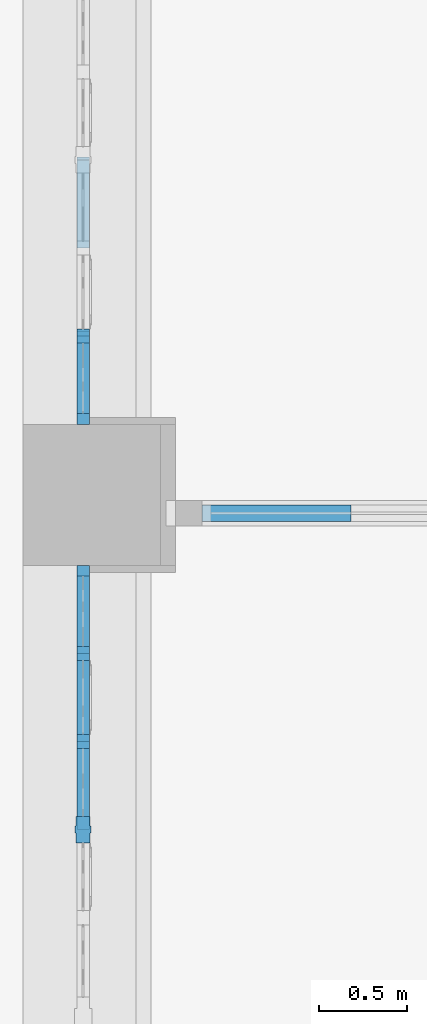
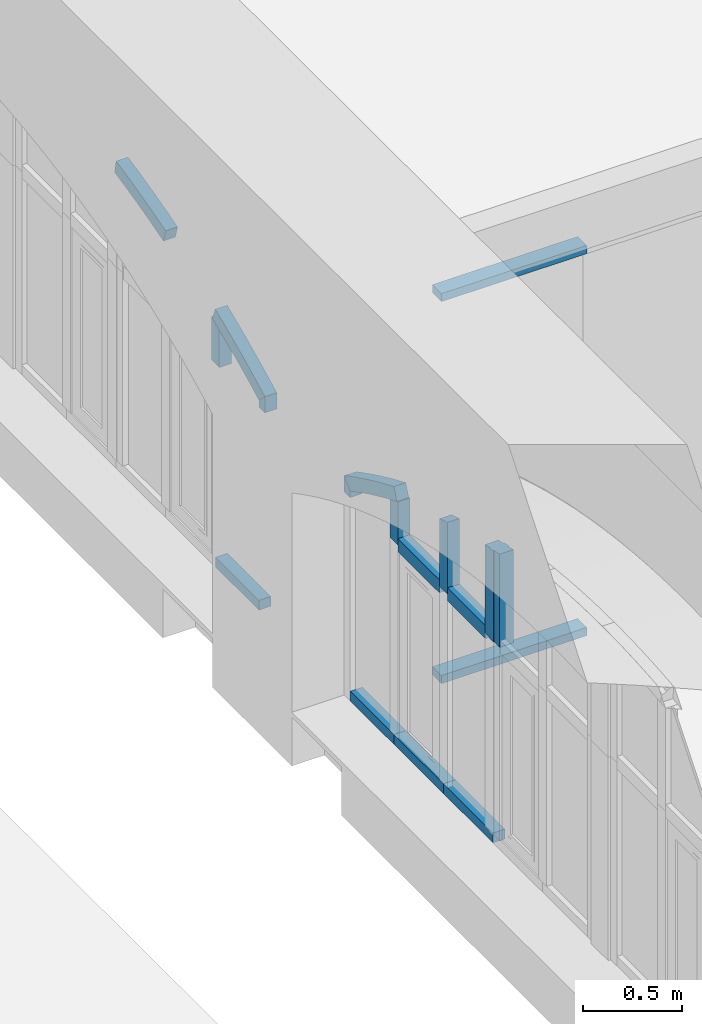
# One storey, part 38 of 88: 17 members, 3 elements without a shape of their own.
"""IFC2X3 building model written with IfcOpenShell, lengths in millimetres."""

from ifc_helpers import new_model, entity, si_unit, converted_unit, derived_unit, direction, frame, frame_2d, origin, place, context, subcontext, project, spatial, polyline, circle_curve, parameter, trimmed, segment, composite_curve, rectangle, outline, extrude, faceted_brep, source, transform, mapped, material, type_object, type_shapes, element, aggregate, save


model = new_model("IFC2X3")

# Units and contexts
model_context = context("Model", 3, precision=0.01, world=origin(), true_north=direction((6.123031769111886e-17, 1.0)))
body_context = subcontext(model_context, "Body", "Model", "MODEL_VIEW")
ifc_project = project(units=[si_unit("LENGTHUNIT", "METRE", prefix="MILLI"), si_unit("AREAUNIT", "SQUARE_METRE"), si_unit("VOLUMEUNIT", "CUBIC_METRE"), converted_unit("PLANEANGLEUNIT", "DEGREE", entity("IfcPlaneAngleMeasure", 0.017453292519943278), si_unit("PLANEANGLEUNIT", "RADIAN"), dimensions=[0, 0, 0, 0, 0, 0, 0]), si_unit("MASSUNIT", "GRAM", prefix="KILO"), derived_unit("MASSDENSITYUNIT", [(si_unit("MASSUNIT", "GRAM", prefix="KILO"), 1), (si_unit("LENGTHUNIT", "METRE"), -3)]), derived_unit("IONCONCENTRATIONUNIT", [(si_unit("MASSUNIT", "GRAM", prefix="KILO"), 1), (si_unit("LENGTHUNIT", "METRE"), -3)]), derived_unit("MOMENTOFINERTIAUNIT", [(si_unit("LENGTHUNIT", "METRE"), 4)]), si_unit("TIMEUNIT", "SECOND"), si_unit("FREQUENCYUNIT", "HERTZ"), si_unit("THERMODYNAMICTEMPERATUREUNIT", "DEGREE_CELSIUS"), derived_unit("THERMALTRANSMITTANCEUNIT", [(si_unit("MASSUNIT", "GRAM", prefix="KILO"), 1), (si_unit("THERMODYNAMICTEMPERATUREUNIT", "KELVIN"), -1), (si_unit("TIMEUNIT", "SECOND"), -3)]), derived_unit("THERMALCONDUCTANCEUNIT", [(si_unit("MASSUNIT", "GRAM", prefix="KILO"), 1), (si_unit("THERMODYNAMICTEMPERATUREUNIT", "KELVIN"), -1), (si_unit("TIMEUNIT", "SECOND"), -3), (si_unit("LENGTHUNIT", "METRE"), 1)]), derived_unit("VOLUMETRICFLOWRATEUNIT", [(si_unit("LENGTHUNIT", "METRE", prefix="DECI"), 3), (si_unit("TIMEUNIT", "SECOND"), -1)]), derived_unit("MASSFLOWRATEUNIT", [(si_unit("MASSUNIT", "GRAM", prefix="KILO"), 1), (si_unit("TIMEUNIT", "SECOND"), -1)]), derived_unit("ROTATIONALFREQUENCYUNIT", [(si_unit("TIMEUNIT", "SECOND"), -1)]), si_unit("ELECTRICCURRENTUNIT", "AMPERE"), si_unit("ELECTRICVOLTAGEUNIT", "VOLT"), si_unit("POWERUNIT", "WATT"), si_unit("FORCEUNIT", "NEWTON", prefix="KILO"), si_unit("ILLUMINANCEUNIT", "LUX"), si_unit("LUMINOUSFLUXUNIT", "LUMEN"), si_unit("LUMINOUSINTENSITYUNIT", "CANDELA"), si_unit("ENERGYUNIT", "JOULE"), derived_unit("USERDEFINED", [(si_unit("MASSUNIT", "GRAM", prefix="KILO"), -1), (si_unit("LENGTHUNIT", "METRE"), -2), (si_unit("TIMEUNIT", "SECOND"), 3), (si_unit("LUMINOUSFLUXUNIT", "LUMEN"), 1)]), derived_unit("USERDEFINED", [(si_unit("MASSUNIT", "GRAM", prefix="KILO"), 1), (si_unit("TIMEUNIT", "SECOND"), -3), (si_unit("LENGTHUNIT", "METRE"), 3), (si_unit("ELECTRICCURRENTUNIT", "AMPERE"), -2)]), derived_unit("SOUNDPOWERUNIT", [(si_unit("MASSUNIT", "GRAM", prefix="KILO"), 1), (si_unit("TIMEUNIT", "SECOND"), -3), (si_unit("LENGTHUNIT", "METRE"), 2)]), derived_unit("SOUNDPRESSUREUNIT", [(si_unit("MASSUNIT", "GRAM", prefix="KILO"), 1), (si_unit("LENGTHUNIT", "METRE"), -1), (si_unit("TIMEUNIT", "SECOND"), -2)]), derived_unit("LINEARVELOCITYUNIT", [(si_unit("LENGTHUNIT", "METRE"), 1), (si_unit("TIMEUNIT", "SECOND"), -1)]), si_unit("PRESSUREUNIT", "PASCAL"), derived_unit("USERDEFINED", [(si_unit("MASSUNIT", "GRAM", prefix="KILO"), 1), (si_unit("LENGTHUNIT", "METRE"), -2), (si_unit("TIMEUNIT", "SECOND"), -2)]), derived_unit("LINEARFORCEUNIT", [(si_unit("MASSUNIT", "GRAM", prefix="KILO"), 1), (si_unit("TIMEUNIT", "SECOND"), -2)]), derived_unit("PLANARFORCEUNIT", [(si_unit("MASSUNIT", "GRAM", prefix="KILO"), 1), (si_unit("LENGTHUNIT", "METRE"), -1), (si_unit("TIMEUNIT", "SECOND"), -2)]), derived_unit("SPECIFICHEATCAPACITYUNIT", [(si_unit("THERMODYNAMICTEMPERATUREUNIT", "KELVIN"), -1), (si_unit("LENGTHUNIT", "METRE"), 2), (si_unit("TIMEUNIT", "SECOND"), -2)]), derived_unit("HEATFLUXDENSITYUNIT", [(si_unit("MASSUNIT", "GRAM", prefix="KILO"), 1), (si_unit("TIMEUNIT", "SECOND"), -3)]), derived_unit("HEATINGVALUEUNIT", [(si_unit("LENGTHUNIT", "METRE"), 2), (si_unit("TIMEUNIT", "SECOND"), -2)]), derived_unit("VAPORPERMEABILITYUNIT", [(si_unit("LENGTHUNIT", "METRE"), -1), (si_unit("TIMEUNIT", "SECOND"), 1)]), derived_unit("DYNAMICVISCOSITYUNIT", [(si_unit("MASSUNIT", "GRAM", prefix="KILO"), 1), (si_unit("TIMEUNIT", "SECOND"), -1), (si_unit("LENGTHUNIT", "METRE"), -1)]), derived_unit("THERMALEXPANSIONCOEFFICIENTUNIT", [(si_unit("THERMODYNAMICTEMPERATUREUNIT", "KELVIN"), -1)]), derived_unit("MODULUSOFELASTICITYUNIT", [(si_unit("MASSUNIT", "GRAM", prefix="KILO"), 1), (si_unit("LENGTHUNIT", "METRE"), -1), (si_unit("TIMEUNIT", "SECOND"), -2)]), derived_unit("ISOTHERMALMOISTURECAPACITYUNIT", [(si_unit("MASSUNIT", "GRAM", prefix="KILO"), -1), (si_unit("LENGTHUNIT", "METRE"), 3)]), derived_unit("MOISTUREDIFFUSIVITYUNIT", [(si_unit("TIMEUNIT", "SECOND"), -1), (si_unit("LENGTHUNIT", "METRE"), 2)]), derived_unit("MASSPERLENGTHUNIT", [(si_unit("MASSUNIT", "GRAM", prefix="KILO"), 1), (si_unit("LENGTHUNIT", "METRE"), -1)]), derived_unit("THERMALRESISTANCEUNIT", [(si_unit("MASSUNIT", "GRAM", prefix="KILO"), -1), (si_unit("TIMEUNIT", "SECOND"), 3), (si_unit("THERMODYNAMICTEMPERATUREUNIT", "KELVIN"), 1)]), derived_unit("ACCELERATIONUNIT", [(si_unit("LENGTHUNIT", "METRE"), 1), (si_unit("TIMEUNIT", "SECOND"), -2)]), derived_unit("ANGULARVELOCITYUNIT", [(si_unit("TIMEUNIT", "SECOND"), -1), (si_unit("PLANEANGLEUNIT", "RADIAN"), 1)]), derived_unit("LINEARSTIFFNESSUNIT", [(si_unit("MASSUNIT", "GRAM", prefix="KILO"), 1), (si_unit("TIMEUNIT", "SECOND"), -2)]), derived_unit("WARPINGCONSTANTUNIT", [(si_unit("LENGTHUNIT", "METRE"), 6)]), derived_unit("LINEARMOMENTUNIT", [(si_unit("MASSUNIT", "GRAM", prefix="KILO"), 1), (si_unit("LENGTHUNIT", "METRE"), 1), (si_unit("TIMEUNIT", "SECOND"), -2)]), derived_unit("TORQUEUNIT", [(si_unit("MASSUNIT", "GRAM", prefix="KILO"), 1), (si_unit("LENGTHUNIT", "METRE"), 2), (si_unit("TIMEUNIT", "SECOND"), -2)])], contexts=[model_context])

# Site, building, storey
site_placement = place(None, origin())
site = spatial("IfcSite", under=ifc_project, at=site_placement, Name="Default", CompositionType="ELEMENT")
building_placement = place(site_placement, origin())
building = spatial("IfcBuilding", under=site, at=building_placement, Name="Eesti Rahvusraamatukogu hoone renoveerimise projekteerimistööd", CompositionType="ELEMENT")
storey_placement = place(building_placement, origin())
storey = spatial("IfcBuildingStorey", under=building, at=storey_placement, Name="1. korrus", CompositionType="ELEMENT", Elevation=0.0)

# Curtain wall, member
curtain_wall_type_1 = type_object("IfcCurtainWallType", Name="Curtain Wall:Ak-02", PredefinedType="NOTDEFINED")
curtain_wall_1_placement = place(storey_placement, origin())
curtain_wall_1 = element("IfcCurtainWall", 1, at=curtain_wall_1_placement, inside=storey, type_object=curtain_wall_type_1, Name="Curtain Wall:Ak-02", ObjectType="Curtain Wall:Ak-02")
ifc_material_1 = material(Name="LUMION_dark steel window frames")
member_type_1 = type_object("IfcMemberType", Name="Rectangular Mullion:NEW 80x70mm", PredefinedType="MULLION", material=ifc_material_1)
shared_shape_1 = source(origin(), body_context, "Body", "SweptSolid", [
    extrude(outline(composite_curve([segment(trimmed(circle_curve(frame_2d((5127.857298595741, 1916.0902897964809), x_axis=(-0.9185017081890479, -0.39541701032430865)), 5520.7156800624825), [parameter(354.2613575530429)], [parameter(359.99999999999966)], True, "PARAMETER"), True, "CONTINUOUS"), segment(polyline([(57.07051603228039, -266.8945992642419), (130.55065268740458, -235.2612384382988)]), True, "CONTINUOUS"), segment(trimmed(circle_curve(frame_2d((5127.857298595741, 1916.0902897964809), x_axis=(-0.9185017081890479, -0.39541701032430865)), 5440.7156800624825), [parameter(354.52804849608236)], [parameter(359.99999999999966)], True, "PARAMETER"), False, "CONTINUOUS"), segment(polyline([(-51.82617782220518, 251.07791885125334), (-135.79499089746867, 251.0779188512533)]), True, "CONTINUOUS")], self_intersect=False)), frame((-53.11529804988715, -35.0, -267.709798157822), z_axis=(0.0, -1.0, 0.0), x_axis=(-0.918501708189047, 0.0, 0.3954170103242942)), (0.0, 0.0, -1.0), 69.99999999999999),
])
type_shapes(member_type_1, [shared_shape_1])
member_1_placement = place(curtain_wall_1_placement, frame((-36440.0, 35490.0, 3565.5687442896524), z_axis=(0.0, -0.9248280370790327, 0.3803854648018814), x_axis=(0.0, 0.3803854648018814, 0.9248280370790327)))
member_1 = element("IfcMember", 2, at=member_1_placement, type_object=member_type_1, material=ifc_material_1, Name="Rectangular Mullion:NEW 80x70mm", ObjectType="Rectangular Mullion:NEW 80x70mm", context=body_context, shape_type="MappedRepresentation", body=[
    mapped(shared_shape_1, transform((0.0, 0.0, 0.0), scale=1.0)),
])

# Curtain wall, members
curtain_wall_2_placement = place(storey_placement, origin())
curtain_wall_2 = element("IfcCurtainWall", 3, at=curtain_wall_2_placement, inside=storey, type_object=curtain_wall_type_1, Name="Curtain Wall:Ak-02", ObjectType="Curtain Wall:Ak-02")
member_type_2 = type_object("IfcMemberType", Name="Rectangular Mullion:NEW 80x70mm", PredefinedType="MULLION", material=ifc_material_1)
shared_shape_2 = source(origin(), body_context, "Body", "SweptSolid", [
    extrude(outline(composite_curve([segment(polyline([(-51.95542765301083, -255.69780513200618), (28.044572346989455, -255.69780513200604)]), True, "CONTINUOUS"), segment(trimmed(circle_curve(frame_2d((5468.760252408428, -255.6978051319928), x_axis=(-0.9956372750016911, 0.09330818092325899)), 5440.715680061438), [parameter(3.5622212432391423e-13)], [parameter(5.353953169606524)], True, "PARAMETER"), False, "CONTINUOUS"), segment(polyline([(51.78091865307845, 251.96547789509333), (-27.870063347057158, 259.4301323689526)]), True, "CONTINUOUS"), segment(trimmed(circle_curve(frame_2d((5468.760252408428, -255.6978051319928), x_axis=(-0.9956372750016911, 0.09330818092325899)), 5520.715680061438), [parameter(3.5622212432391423e-13)], [parameter(5.353953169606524)], True, "PARAMETER"), True, "CONTINUOUS")], self_intersect=False)), frame((-51.9554276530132, -35.0, -255.6978051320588), z_axis=(0.0, 1.0, 0.0), x_axis=(-0.9956372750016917, 0.0, 0.09330818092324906)), (0.0, 0.0, 1.0), 70.00000000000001),
])
type_shapes(member_type_2, [shared_shape_2])
member_2_placement = place(curtain_wall_2_placement, frame((-36440.0, 37790.0, 3743.6333100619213), z_axis=(0.0, -0.9570819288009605, -0.28981749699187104), x_axis=(0.0, -0.28981749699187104, 0.9570819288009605)))
member_2 = element("IfcMember", 4, at=member_2_placement, type_object=member_type_2, material=ifc_material_1, Name="Rectangular Mullion:NEW 80x70mm", ObjectType="Rectangular Mullion:NEW 80x70mm", context=body_context, shape_type="MappedRepresentation", body=[
    mapped(shared_shape_2, transform((0.0, 0.0, 0.0), scale=1.0)),
])
member_type_3 = type_object("IfcMemberType", Name="Rectangular Mullion:NEW 80x70mm", PredefinedType="MULLION", material=ifc_material_1)
shared_shape_3 = source(origin(), body_context, "Body", "SweptSolid", [
    extrude(outline(composite_curve([segment(polyline([(-53.11529804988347, -267.70979815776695), (26.884701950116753, -267.709798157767)]), True, "CONTINUOUS"), segment(trimmed(circle_curve(frame_2d((5467.600382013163, -267.70979815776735), x_axis=(-0.9949883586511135, 0.0999908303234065)), 5440.7156800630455), [parameter(0.26669094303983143)], [parameter(5.738642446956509)], True, "PARAMETER"), False, "CONTINUOUS"), segment(polyline([(51.67804717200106, 251.10844964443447), (-25.447451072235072, 284.3111466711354)]), True, "CONTINUOUS"), segment(trimmed(circle_curve(frame_2d((5467.600382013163, -267.70979815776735), x_axis=(-0.9949883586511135, 0.0999908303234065)), 5520.7156800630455), [parameter(3.5622212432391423e-13)], [parameter(5.738642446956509)], True, "PARAMETER"), True, "CONTINUOUS")], self_intersect=False)), frame((-53.748425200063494, -35.0, -280.34176941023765), z_axis=(0.0, 1.0, 0.0), x_axis=(-0.9949883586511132, 0.0, 0.0999908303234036)), (0.0, 0.0, 1.0), 69.99999999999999),
])
type_shapes(member_type_3, [shared_shape_3])
member_3_placement = place(curtain_wall_2_placement, frame((-36440.0, 36790.0, 3330.0), z_axis=(0.0, -0.8821580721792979, -0.4709534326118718), x_axis=(0.0, -0.4709534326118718, 0.8821580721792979)))
member_3 = element("IfcMember", 5, at=member_3_placement, type_object=member_type_3, material=ifc_material_1, Name="Rectangular Mullion:NEW 80x70mm", ObjectType="Rectangular Mullion:NEW 80x70mm", context=body_context, shape_type="MappedRepresentation", body=[
    mapped(shared_shape_3, transform((0.0, 0.0, 0.0), scale=1.0)),
])

# Member
member_type_4 = type_object("IfcMemberType", Name="Rectangular Mullion:NEW 80x70mm", PredefinedType="MULLION", material=ifc_material_1)
shared_shape_4 = source(origin(), body_context, "Body", "SweptSolid", [
    extrude(outline(composite_curve([segment(polyline([(-151.82490852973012, -33.91383256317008), (113.68279751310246, -33.91383256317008)]), True, "CONTINUOUS"), segment(trimmed(circle_curve(frame_2d((-4921.968809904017, -2093.9138325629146), x_axis=(0.9570819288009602, 0.2898174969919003)), 5440.715680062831), [parameter(5.401610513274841)], [parameter(5.510531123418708)], True, "PARAMETER"), True, "CONTINUOUS"), segment(trimmed(circle_curve(frame_2d((-4921.968809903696, -2093.9138325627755), x_axis=(0.9248280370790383, 0.38038546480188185)), 5440.7156800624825), [parameter(0.0)], [parameter(0.8043376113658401)], True, "PARAMETER"), True, "CONTINUOUS"), segment(polyline([(80.20942675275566, 46.08616743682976), (-151.82490852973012, 46.08616743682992)]), True, "CONTINUOUS"), segment(polyline([(-151.82490852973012, 46.08616743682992), (-151.82490852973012, -33.91383256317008)]), True, "CONTINUOUS")], self_intersect=False)), frame((6.086167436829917, -35.0, -151.82490852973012), z_axis=(0.0, 1.0, 0.0), x_axis=(0.0, 0.0, -1.0)), (0.0, 0.0, 1.0), 69.99999999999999),
])
type_shapes(member_type_4, [shared_shape_4])
member_4_placement = place(curtain_wall_1_placement, frame((-36440.0, 35490.0, 3230.0), z_axis=(0.0, 0.0, -1.0), x_axis=(0.0, -1.0, 0.0)))
member_4 = element("IfcMember", 6, at=member_4_placement, type_object=member_type_4, material=ifc_material_1, Name="Rectangular Mullion:NEW 80x70mm", ObjectType="Rectangular Mullion:NEW 80x70mm", context=body_context, shape_type="MappedRepresentation", body=[
    mapped(shared_shape_4, transform((0.0, 0.0, 0.0), scale=1.0)),
])

member_type_5 = type_object("IfcMemberType", Name="Rectangular Mullion:NEW 80x70mm", PredefinedType="MULLION", material=ifc_material_1)
shared_shape_5 = source(origin(), body_context, "Body", "SweptSolid", [
    extrude(outline(composite_curve([segment(polyline([(-259.34177632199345, -35.36292004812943), (182.78706183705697, -35.36292004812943)]), True, "CONTINUOUS"), segment(trimmed(circle_curve(frame_2d((-5029.485677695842, -1595.3629200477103), x_axis=(0.9799487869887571, 0.19924952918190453)), 5440.715680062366), [parameter(5.169029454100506)], [parameter(5.353953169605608)], True, "PARAMETER"), True, "CONTINUOUS"), segment(trimmed(circle_curve(frame_2d((-5029.48567769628, -1595.362920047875), x_axis=(0.9570819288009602, 0.2898174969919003)), 5440.715680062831), [parameter(0.0)], [parameter(0.6965383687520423)], True, "PARAMETER"), True, "CONTINUOUS"), segment(polyline([(158.17151137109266, 44.63707995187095), (-259.34177632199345, 44.63707995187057)]), True, "CONTINUOUS"), segment(polyline([(-259.34177632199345, 44.63707995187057), (-259.34177632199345, -35.36292004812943)]), True, "CONTINUOUS")], self_intersect=False)), frame((4.637079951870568, -35.0, -259.34177632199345), z_axis=(0.0, 1.0, 0.0), x_axis=(0.0, 0.0, -1.0)), (0.0, 0.0, 1.0), 70.00000000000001),
])
type_shapes(member_type_5, [shared_shape_5])
member_5_placement = place(curtain_wall_1_placement, frame((-36440.0, 34990.0, 3230.0), z_axis=(0.0, 0.0, -1.0), x_axis=(0.0, -1.0, 0.0)))
member_5 = element("IfcMember", 7, at=member_5_placement, type_object=member_type_5, material=ifc_material_1, Name="Rectangular Mullion:NEW 80x70mm", ObjectType="Rectangular Mullion:NEW 80x70mm", context=body_context, shape_type="MappedRepresentation", body=[
    mapped(shared_shape_5, transform((0.0, 0.0, 0.0), scale=1.0)),
])

member_type_6 = type_object("IfcMemberType", Name="Rectangular Mullion:NEW 150x90mm", PredefinedType="MULLION", material=ifc_material_1)
shared_shape_6 = source(origin(), body_context, "Body", "Brep", [
    faceted_brep([(-20.0, -40.0, 0.0), (-20.0, -45.0, 0.0), (20.0, -45.0, 0.0), (20.0, -40.0, 0.0), (75.0, -40.0, 0.0), (75.0, 40.0, 0.0), (20.0, 40.0, 0.0), (20.0, 45.0, 0.0), (-20.0, 45.0, 0.0), (-20.0, 40.0, 0.0), (-75.0, 40.0, 0.0), (-75.0, -40.0, 0.0), (-20.0, 40.0, -554.0449674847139), (-47.51534075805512, 40.0, -548.1824945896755), (-75.0, 40.0, -542.1778237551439), (75.0, 40.0, -573.1474168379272), (47.48603249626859, 40.0, -567.7959127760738), (20.0, 40.0, -562.3027332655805), (-75.0, -40.0, -542.1778237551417), (-47.515340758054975, -40.0, -548.1824945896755), (-20.0, -40.0, -554.0449674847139), (20.0, -40.0, -562.30273326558), (47.48603249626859, -40.0, -567.7959127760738), (75.0, -40.0, -573.1474168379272), (-20.0, -45.0, -554.0449674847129), (-20.0, 45.0, -554.0449674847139), (-2.036281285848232, -45.0, -557.7922042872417), (15.939962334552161, -45.0, -561.4788296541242), (17.969902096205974, -45.0, -561.8911677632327), (20.0, -45.0, -562.3027332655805), (20.0, 45.0, -562.30273326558), (17.969902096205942, 45.0, -561.8911677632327), (15.939962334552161, 45.0, -561.4788296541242), (-2.036281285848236, 45.0, -557.7922042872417), (15.939962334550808, 33.74999999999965, -561.4788296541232), (15.939962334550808, 22.499999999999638, -561.4788296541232), (15.939962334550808, 0.0, -561.4788296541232), (15.939962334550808, -22.500000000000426, -561.4788296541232), (15.939962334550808, -33.75000000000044, -561.4788296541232)], [[[0, 1, 2, 3, 4, 5, 6, 7, 8, 9, 10, 11]], [[10, 9, 12, 13, 14]], [[6, 5, 15, 16, 17]], [[11, 10, 14, 18]], [[0, 11, 18, 19, 20]], [[4, 3, 21, 22, 23]], [[1, 0, 20, 24]], [[9, 8, 25, 12]], [[1, 24, 26, 27, 28, 29, 2]], [[3, 2, 29, 21]], [[7, 6, 17, 30]], [[5, 4, 23, 15]], [[7, 30, 31, 32, 33, 25, 8]], [[26, 33, 32, 34, 35, 36, 37, 38, 27]], [[20, 12, 25, 33, 26, 24]], [[20, 19, 13, 12]], [[19, 18, 14, 13]], [[15, 23, 22, 16]], [[17, 35, 34, 32]], [[21, 27, 38, 37]], [[16, 35, 17]], [[21, 37, 22]], [[36, 35, 16, 22, 37]], [[27, 21, 28]], [[31, 30, 17]], [[28, 21, 29]], [[17, 32, 31]]]),
])
type_shapes(member_type_6, [shared_shape_6])
member_6_placement = place(curtain_wall_1_placement, frame((-36440.0, 34490.0, 3230.0), z_axis=(0.0, 0.0, -1.0), x_axis=(0.0, -1.0, 0.0)))
member_6 = element("IfcMember", 8, at=member_6_placement, type_object=member_type_6, material=ifc_material_1, Name="Rectangular Mullion:NEW 150x90mm", ObjectType="Rectangular Mullion:NEW 150x90mm", context=body_context, shape_type="MappedRepresentation", body=[
    mapped(shared_shape_6, transform((0.0, 0.0, 0.0), scale=1.0)),
])

member_type_7 = type_object("IfcMemberType", Name="Rectangular Mullion:NEW 80x70mm", PredefinedType="MULLION", material=ifc_material_1)
shared_shape_7 = source(origin(), body_context, "Body", "SweptSolid", [
    extrude(outline(composite_curve([segment(polyline([(-151.8249085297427, -46.086167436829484), (80.20942675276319, -46.086167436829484)]), True, "CONTINUOUS"), segment(trimmed(circle_curve(frame_2d((-4921.968809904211, 2093.913832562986), x_axis=(0.8821580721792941, -0.47095343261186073)), 5440.7156800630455), [parameter(4.934304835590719)], [parameter(5.738642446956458)], True, "PARAMETER"), True, "CONTINUOUS"), segment(trimmed(circle_curve(frame_2d((-4921.968809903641, 2093.9138325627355), x_axis=(0.9248280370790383, -0.3803854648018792)), 5440.715680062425), [parameter(0.0)], [parameter(0.1089206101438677)], True, "PARAMETER"), True, "CONTINUOUS"), segment(polyline([(113.68279751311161, 33.91383256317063), (-151.8249085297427, 33.913832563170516)]), True, "CONTINUOUS"), segment(polyline([(-151.8249085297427, 33.913832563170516), (-151.8249085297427, -46.086167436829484)]), True, "CONTINUOUS")], self_intersect=False)), frame((-6.086167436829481, -35.0, -151.8249085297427), z_axis=(0.0, 1.0, 0.0), x_axis=(0.0, 0.0, -1.0)), (0.0, 0.0, 1.0), 70.00000000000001),
])
type_shapes(member_type_7, [shared_shape_7])
member_7_placement = place(curtain_wall_2_placement, frame((-36440.0, 37290.0, 3230.0), z_axis=(0.0, 0.0, -1.0), x_axis=(0.0, -1.0, 0.0)))
member_7 = element("IfcMember", 9, at=member_7_placement, type_object=member_type_7, material=ifc_material_1, Name="Rectangular Mullion:NEW 80x70mm", ObjectType="Rectangular Mullion:NEW 80x70mm", context=body_context, shape_type="MappedRepresentation", body=[
    mapped(shared_shape_7, transform((0.0, 0.0, 0.0), scale=1.0)),
])

member_type_8 = type_object("IfcMemberType", Name="Rectangular Mullion:NEW 80x70mm", PredefinedType="MULLION", material=ifc_material_1)
shared_shape_8 = source(origin(), body_context, "Body", "SweptSolid", [
    extrude(rectangle(XDim=80.0, YDim=70.0, at=frame_2d((0.0, -3.552713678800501e-15), x_axis=(1.0, 0.0))), frame((0.0, 0.0, -420.0), z_axis=(0.0, 0.0, 1.0), x_axis=(-1.0, 0.0, 0.0)), (0.0, 0.0, 1.0), 419.999999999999),
])
type_shapes(member_type_8, [shared_shape_8])
member_8_placement = place(curtain_wall_1_placement, frame((-36440.0, 35030.0, 3230.0), z_axis=(0.0, -1.0, 0.0), x_axis=(0.0, 0.0, 1.0)))
member_8 = element("IfcMember", 10, at=member_8_placement, type_object=member_type_8, material=ifc_material_1, Name="Rectangular Mullion:NEW 80x70mm", ObjectType="Rectangular Mullion:NEW 80x70mm", context=body_context, shape_type="MappedRepresentation", body=[
    mapped(shared_shape_8, transform((0.0, 0.0, 0.0), scale=1.0)),
])

member_type_9 = type_object("IfcMemberType", Name="Rectangular Mullion:NEW 80x70mm", PredefinedType="MULLION", material=ifc_material_1)
shared_shape_9 = source(origin(), body_context, "Body", "SweptSolid", [
    extrude(rectangle(XDim=80.0, YDim=70.0, at=frame_2d((0.0, -3.552713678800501e-15), x_axis=(1.0, 0.0))), frame((0.0, 0.0, -385.0), z_axis=(0.0, 0.0, 1.0), x_axis=(-1.0, 0.0, 0.0)), (0.0, 0.0, 1.0), 384.99999999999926),
])
type_shapes(member_type_9, [shared_shape_9])
member_9_placement = place(curtain_wall_1_placement, frame((-36440.0, 34565.0, 3230.0), z_axis=(0.0, -1.0, 0.0), x_axis=(0.0, 0.0, 1.0)))
member_9 = element("IfcMember", 11, at=member_9_placement, type_object=member_type_9, material=ifc_material_1, Name="Rectangular Mullion:NEW 80x70mm", ObjectType="Rectangular Mullion:NEW 80x70mm", context=body_context, shape_type="MappedRepresentation", body=[
    mapped(shared_shape_9, transform((0.0, 0.0, 0.0), scale=1.0)),
])

member_type_10 = type_object("IfcMemberType", Name="Rectangular Mullion:NEW 60x70mm", PredefinedType="MULLION", material=ifc_material_1)
shared_shape_10 = source(origin(), body_context, "Body", "SweptSolid", [
    extrude(rectangle(XDim=60.0, YDim=70.0, at=frame_2d((0.0, 3.552713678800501e-15), x_axis=(1.0, 0.0))), frame((-30.0, 0.0, -500.0), z_axis=(0.0, 0.0, 1.0), x_axis=(-1.0, 0.0, 0.0)), (0.0, 0.0, 1.0), 499.999999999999),
])
type_shapes(member_type_10, [shared_shape_10])
member_10_placement = place(curtain_wall_1_placement, frame((-36440.0, 35490.0, 1980.0), z_axis=(0.0, 1.0, 0.0), x_axis=(0.0, 0.0, -1.0)))
member_10 = element("IfcMember", 12, at=member_10_placement, type_object=member_type_10, material=ifc_material_1, Name="Rectangular Mullion:NEW 60x70mm", ObjectType="Rectangular Mullion:NEW 60x70mm", context=body_context, shape_type="MappedRepresentation", body=[
    mapped(shared_shape_10, transform((0.0, 0.0, 0.0), scale=1.0)),
])

member_11_placement = place(curtain_wall_1_placement, frame((-36440.0, 34990.0, 1980.0), z_axis=(0.0, 1.0, 0.0), x_axis=(0.0, 0.0, -1.0)))
member_11 = element("IfcMember", 13, at=member_11_placement, type_object=member_type_10, material=ifc_material_1, Name="Rectangular Mullion:NEW 60x70mm", ObjectType="Rectangular Mullion:NEW 60x70mm", context=body_context, shape_type="MappedRepresentation", body=[
    mapped(shared_shape_10, transform((0.0, 0.0, 0.0), scale=1.0)),
])

member_type_11 = type_object("IfcMemberType", Name="Rectangular Mullion:NEW 60x70mm", PredefinedType="MULLION", material=ifc_material_1)
shared_shape_11 = source(origin(), body_context, "Body", "SweptSolid", [
    extrude(rectangle(XDim=60.0, YDim=70.0, at=frame_2d((0.0, 3.552713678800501e-15), x_axis=(1.0, 0.0))), frame((-30.0, 0.0, -440.0), z_axis=(0.0, 0.0, 1.0), x_axis=(-1.0, 0.0, 0.0)), (0.0, 0.0, 1.0), 439.9999999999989),
])
type_shapes(member_type_11, [shared_shape_11])
member_12_placement = place(curtain_wall_2_placement, frame((-36440.0, 37290.0, 1980.0), z_axis=(0.0, 1.0, 0.0), x_axis=(0.0, 0.0, -1.0)))
member_12 = element("IfcMember", 14, at=member_12_placement, type_object=member_type_11, material=ifc_material_1, Name="Rectangular Mullion:NEW 60x70mm", ObjectType="Rectangular Mullion:NEW 60x70mm", context=body_context, shape_type="MappedRepresentation", body=[
    mapped(shared_shape_11, transform((0.0, 0.0, 0.0), scale=1.0)),
])

member_type_12 = type_object("IfcMemberType", Name="Rectangular Mullion:NEW 60x70mm", PredefinedType="MULLION", material=ifc_material_1)
shared_shape_12 = source(origin(), body_context, "Body", "SweptSolid", [
    extrude(rectangle(XDim=60.0, YDim=70.0, at=frame_2d((0.0, 3.552713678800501e-15), x_axis=(1.0, 0.0))), frame((-30.0, 0.0, -440.0), z_axis=(0.0, 0.0, 1.0), x_axis=(-1.0, 0.0, 0.0)), (0.0, 0.0, 1.0), 439.9999999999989),
])
type_shapes(member_type_12, [shared_shape_12])
member_13_placement = place(curtain_wall_1_placement, frame((-36440.0, 35930.0, 1980.0), z_axis=(0.0, 1.0, 0.0), x_axis=(0.0, 0.0, -1.0)))
member_13 = element("IfcMember", 15, at=member_13_placement, type_object=member_type_12, material=ifc_material_1, Name="Rectangular Mullion:NEW 60x70mm", ObjectType="Rectangular Mullion:NEW 60x70mm", context=body_context, shape_type="MappedRepresentation", body=[
    mapped(shared_shape_12, transform((0.0, 0.0, 0.0), scale=1.0)),
])

member_type_13 = type_object("IfcMemberType", Name="Rectangular Mullion:NEW 60x70mm", PredefinedType="MULLION", material=ifc_material_1)
shared_shape_13 = source(origin(), body_context, "Body", "SweptSolid", [
    extrude(outline(polyline([(-35.33630318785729, -30.0), (64.6636968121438, -30.0), (6.008909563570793, 30.0), (-35.33630318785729, 30.0), (-35.33630318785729, -30.0)])), frame((-30.0, -35.0, -35.33630318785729), z_axis=(0.0, 1.0, 0.0), x_axis=(0.0, 0.0, -1.0)), (0.0, 0.0, 1.0), 69.99999999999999),
])
type_shapes(member_type_13, [shared_shape_13])
member_14_placement = place(curtain_wall_2_placement, frame((-36440.0, 36790.0, 3230.0), z_axis=(0.0, 0.0, -1.0), x_axis=(0.0, -1.0, 0.0)))
member_14 = element("IfcMember", 16, at=member_14_placement, type_object=member_type_13, material=ifc_material_1, Name="Rectangular Mullion:NEW 60x70mm", ObjectType="Rectangular Mullion:NEW 60x70mm", context=body_context, shape_type="MappedRepresentation", body=[
    mapped(shared_shape_13, transform((0.0, 0.0, 0.0), scale=1.0)),
])

aggregate(curtain_wall_2, [member_2, member_3, member_7, member_12, member_14])

member_type_14 = type_object("IfcMemberType", Name="Rectangular Mullion:NEW 60x70mm", PredefinedType="MULLION", material=ifc_material_1)
shared_shape_14 = source(origin(), body_context, "Body", "SweptSolid", [
    extrude(outline(polyline([(-64.66369681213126, -30.0), (35.336303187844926, -30.0), (35.336303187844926, 30.0), (-6.008909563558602, 30.0), (-64.66369681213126, -30.0)])), frame((-30.0, -35.0, -64.66369681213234), z_axis=(0.0, 1.0, 0.0), x_axis=(0.0, 0.0, -1.0)), (0.0, 0.0, 1.0), 69.99999999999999),
])
type_shapes(member_type_14, [shared_shape_14])
member_15_placement = place(curtain_wall_1_placement, frame((-36440.0, 35990.0, 3330.0), z_axis=(0.0, 0.0, 1.0), x_axis=(0.0, 1.0, 0.0)))
member_15 = element("IfcMember", 17, at=member_15_placement, type_object=member_type_14, material=ifc_material_1, Name="Rectangular Mullion:NEW 60x70mm", ObjectType="Rectangular Mullion:NEW 60x70mm", context=body_context, shape_type="MappedRepresentation", body=[
    mapped(shared_shape_14, transform((0.0, 0.0, 0.0), scale=1.0)),
])

aggregate(curtain_wall_1, [member_1, member_4, member_5, member_6, member_8, member_9, member_10, member_11, member_13, member_15])

# Curtain wall, members
curtain_wall_type_2 = type_object("IfcCurtainWallType", Name="Curtain Wall:VLS Klaasvahesein profiilita 38db", PredefinedType="NOTDEFINED")
curtain_wall_3_placement = place(storey_placement, origin())
curtain_wall_3 = element("IfcCurtainWall", 18, at=curtain_wall_3_placement, inside=storey, type_object=curtain_wall_type_2, Name="Curtain Wall:VLS Klaasvahesein profiilita 38db", ObjectType="Curtain Wall:VLS Klaasvahesein profiilita 38db")
ifc_material_2 = material(Name="Aluminum")
member_type_15 = type_object("IfcMemberType", Name="Rectangular Mullion:50mm x 92mm", PredefinedType="MULLION", material=ifc_material_2)
shared_shape_15 = source(origin(), body_context, "Body", "SweptSolid", [
    extrude(rectangle(XDim=50.0, YDim=92.0, at=frame_2d((0.0, 3.552713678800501e-15), x_axis=(1.0, 0.0))), frame((-25.0, 0.0, -845.4999999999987), z_axis=(0.0, 0.0, 1.0), x_axis=(-1.0, 0.0, 0.0)), (0.0, 0.0, 1.0), 845.4999999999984),
])
type_shapes(member_type_15, [shared_shape_15])
member_16_placement = place(curtain_wall_3_placement, frame((-35765.5000000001, 36284.74185018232, 1650.0), z_axis=(-1.0, 0.0, 0.0), x_axis=(0.0, 0.0, -1.0)))
member_16 = element("IfcMember", 19, at=member_16_placement, type_object=member_type_15, material=ifc_material_2, Name="Rectangular Mullion:50mm x 92mm", ObjectType="Rectangular Mullion:50mm x 92mm", context=body_context, shape_type="MappedRepresentation", body=[
    mapped(shared_shape_15, transform((0.0, 0.0, 0.0), scale=1.0)),
])
member_type_16 = type_object("IfcMemberType", Name="Rectangular Mullion:50mm x 92mm", PredefinedType="MULLION", material=ifc_material_2)
shared_shape_16 = source(origin(), body_context, "Body", "SweptSolid", [
    extrude(rectangle(XDim=50.0, YDim=92.0, at=frame_2d((0.0, 3.552713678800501e-15), x_axis=(1.0, 0.0))), frame((-25.0, 0.0, -845.499999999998), z_axis=(0.0, 0.0, 1.0), x_axis=(-1.0, 0.0, 0.0)), (0.0, 0.0, 1.0), 845.4999999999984),
])
type_shapes(member_type_16, [shared_shape_16])
member_17_placement = place(curtain_wall_3_placement, frame((-34920.0, 36284.74185018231, 4050.0), z_axis=(1.0, 0.0, 0.0), x_axis=(0.0, 0.0, 1.0)))
member_17 = element("IfcMember", 20, at=member_17_placement, type_object=member_type_16, material=ifc_material_2, Name="Rectangular Mullion:50mm x 92mm", ObjectType="Rectangular Mullion:50mm x 92mm", context=body_context, shape_type="MappedRepresentation", body=[
    mapped(shared_shape_16, transform((0.0, 0.0, 0.0), scale=1.0)),
])
aggregate(curtain_wall_3, [member_16, member_17])

save(model, "model.ifc")
